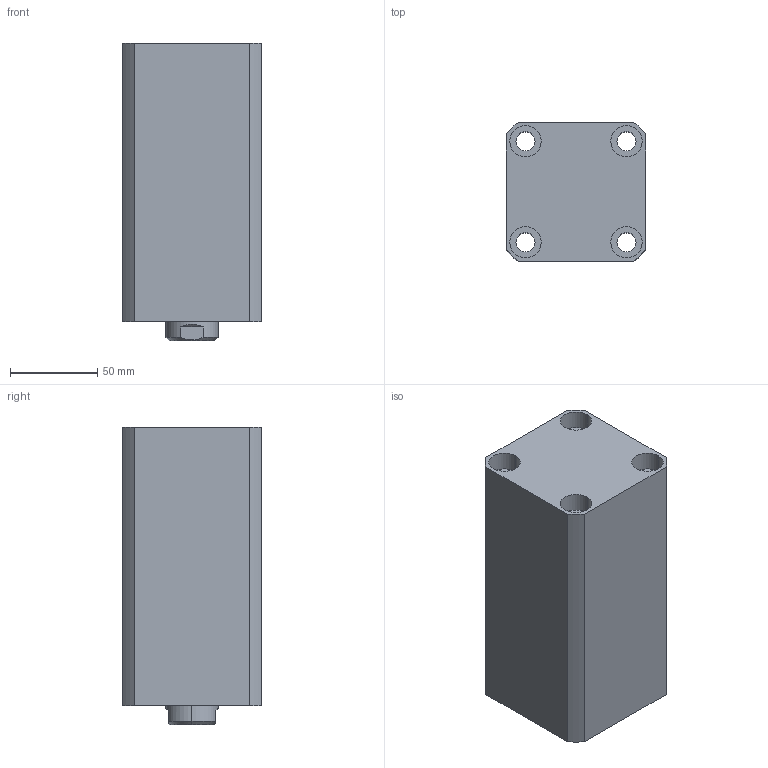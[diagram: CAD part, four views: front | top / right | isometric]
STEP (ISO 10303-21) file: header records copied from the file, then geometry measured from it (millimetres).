
FILE_DESCRIPTION (( 'STEP AP203' ), '1' );
FILE_NAME ('CHTB-SD-100N.STEP', '2018-05-19T01:02:45', ( '' ), ( '' ), 'SwSTEP 2.0', 'SolidWorks 2015', '' );
FILE_SCHEMA (( 'CONFIG_CONTROL_DESIGN' ));
Length unit declared in the file: millimetre
Products named in the file (4): 掛极SD50-100N; CHTB-SD-100N; 活塞杆SD50-100N; CHTM-SD50QG
Assembly tree (3 placements, depth 2):
  CHTB-SD-100N
    掛极SD50-100N
    活塞杆SD50-100N
    CHTM-SD50QG
Bounding box: 80 x 80 x 171 mm (x, y, z)
Volume: 801735.5 mm3; surface area: 147731.1 mm2
Topology: 3 solids, 3 shells, 194 faces, 499 edges, 330 vertices
Faces by surface type: cylinder 104, plane 39, cone 21, torus 16, bspline 14
Entity records: 10789 total; most frequent: CARTESIAN_POINT 5840, ORIENTED_EDGE 986, DIRECTION 914, EDGE_CURVE 493, AXIS2_PLACEMENT_3D 383, VERTEX_POINT 330, EDGE_LOOP 233, CIRCLE 197
